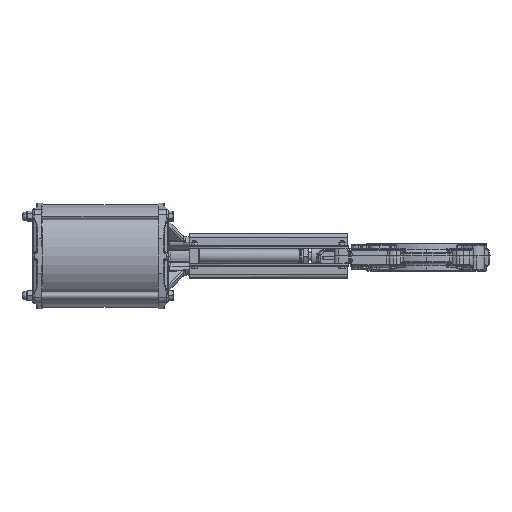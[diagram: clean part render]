
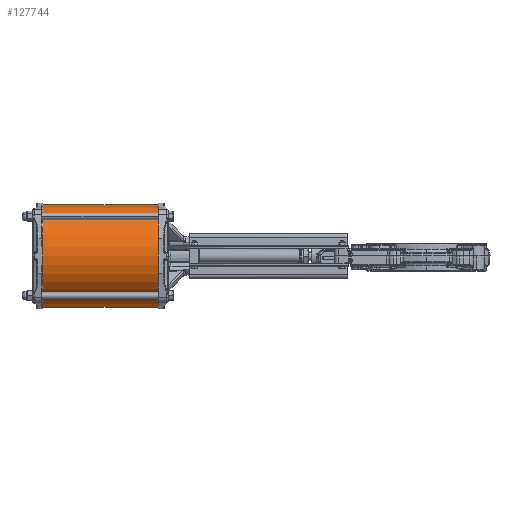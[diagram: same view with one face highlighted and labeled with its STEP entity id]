
A CAD part, left-side view. The second image highlights one B-rep face of the part: STEP entity #127744.
In plain terms, the highlighted cylindrical face has radius 131 mm (diameter 262 mm), a partial arc.
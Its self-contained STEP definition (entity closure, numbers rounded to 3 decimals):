
#854 = ORIENTED_EDGE ( 'NONE', *, *, #7284, .F. ) ;
#3292 = ORIENTED_EDGE ( 'NONE', *, *, #135350, .F. ) ;
#7284 = EDGE_CURVE ( 'NONE', #33653, #193156, #198408, .T. ) ;
#14967 = LINE ( 'NONE', #180985, #96600 ) ;
#15527 = AXIS2_PLACEMENT_3D ( 'NONE', #183556, #85805, #199982 ) ;
#33653 = VERTEX_POINT ( 'NONE', #117982 ) ;
#36210 = EDGE_CURVE ( 'NONE', #73207, #196002, #187138, .T. ) ;
#41866 = ORIENTED_EDGE ( 'NONE', *, *, #178177, .T. ) ;
#42720 = DIRECTION ( 'NONE',  ( 0., -1., 0. ) ) ;
#42777 = CYLINDRICAL_SURFACE ( 'NONE', #77750, 131. ) ;
#73207 = VERTEX_POINT ( 'NONE', #101857 ) ;
#77720 = LINE ( 'NONE', #94281, #207896 ) ;
#77750 = AXIS2_PLACEMENT_3D ( 'NONE', #132748, #84265, #166289 ) ;
#84265 = DIRECTION ( 'NONE',  ( 0., -1., 0. ) ) ;
#85805 = DIRECTION ( 'NONE',  ( 0., 1., 0. ) ) ;
#94281 = CARTESIAN_POINT ( 'NONE',  ( 0., 746.277, 130.75 ) ) ;
#96600 = VECTOR ( 'NONE', #197403, 1000. ) ;
#101601 = FACE_OUTER_BOUND ( 'NONE', #142689, .T. ) ;
#101857 = CARTESIAN_POINT ( 'NONE',  ( 0., 982.5, -131.25 ) ) ;
#110627 = DIRECTION ( 'NONE',  ( 0., -1., 0. ) ) ;
#113103 = ORIENTED_EDGE ( 'NONE', *, *, #36210, .F. ) ;
#117982 = CARTESIAN_POINT ( 'NONE',  ( 0., 682.5, 130.75 ) ) ;
#127744 = ADVANCED_FACE ( 'NONE', ( #101601 ), #42777, .T. ) ;
#132748 = CARTESIAN_POINT ( 'NONE',  ( 0., 746.277, -0.25 ) ) ;
#135350 = EDGE_CURVE ( 'NONE', #196002, #33653, #77720, .T. ) ;
#140561 = CARTESIAN_POINT ( 'NONE',  ( 0., 682.5, -0.25 ) ) ;
#142689 = EDGE_LOOP ( 'NONE', ( #113103, #41866, #854, #3292 ) ) ;
#147546 = CARTESIAN_POINT ( 'NONE',  ( 0., 982.5, 130.75 ) ) ;
#156863 = DIRECTION ( 'NONE',  ( 0., 0., 1. ) ) ;
#163789 = AXIS2_PLACEMENT_3D ( 'NONE', #140561, #42720, #156863 ) ;
#166289 = DIRECTION ( 'NONE',  ( 0., 0., 1. ) ) ;
#172721 = CARTESIAN_POINT ( 'NONE',  ( 0., 682.5, -131.25 ) ) ;
#178177 = EDGE_CURVE ( 'NONE', #73207, #193156, #14967, .T. ) ;
#180985 = CARTESIAN_POINT ( 'NONE',  ( 0., 746.277, -131.25 ) ) ;
#183556 = CARTESIAN_POINT ( 'NONE',  ( 0., 982.5, -0.25 ) ) ;
#187138 = CIRCLE ( 'NONE', #15527, 131. ) ;
#193156 = VERTEX_POINT ( 'NONE', #172721 ) ;
#196002 = VERTEX_POINT ( 'NONE', #147546 ) ;
#197403 = DIRECTION ( 'NONE',  ( 0., -1., 0. ) ) ;
#198408 = CIRCLE ( 'NONE', #163789, 131. ) ;
#199982 = DIRECTION ( 'NONE',  ( 0., 0., -1. ) ) ;
#207896 = VECTOR ( 'NONE', #110627, 1000. ) ;
